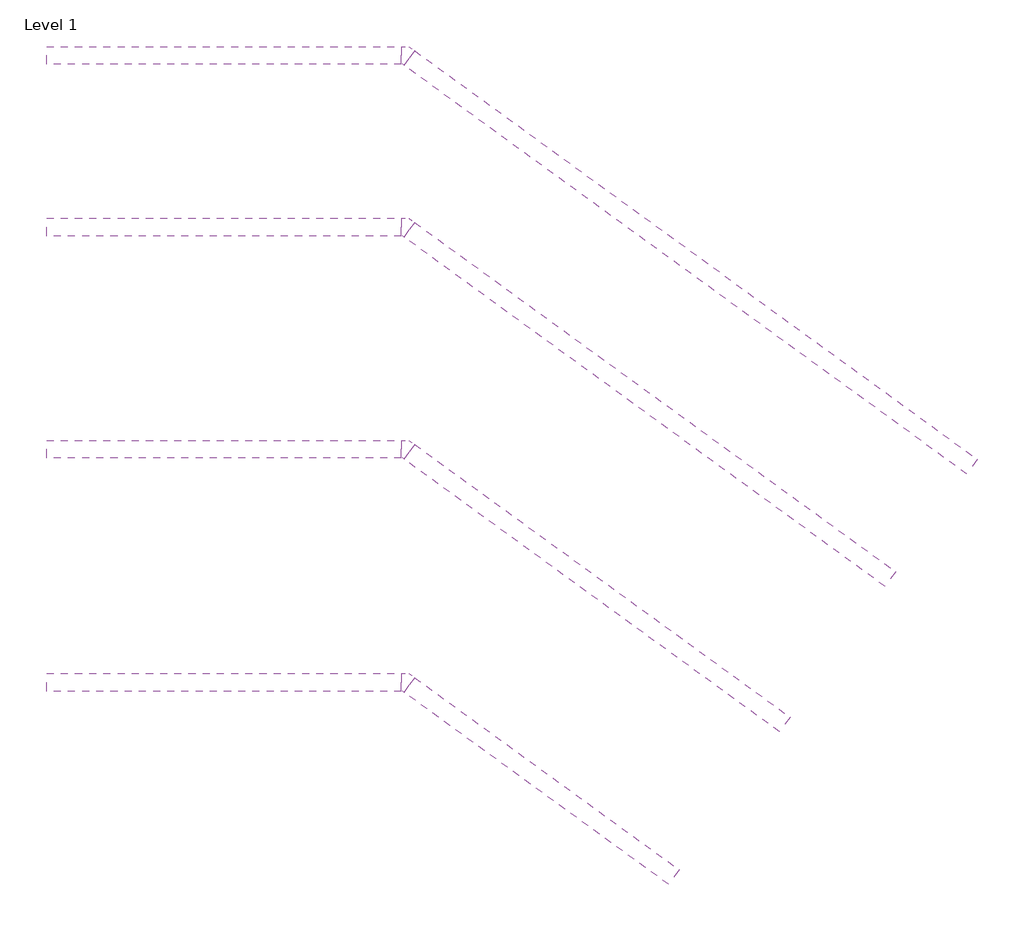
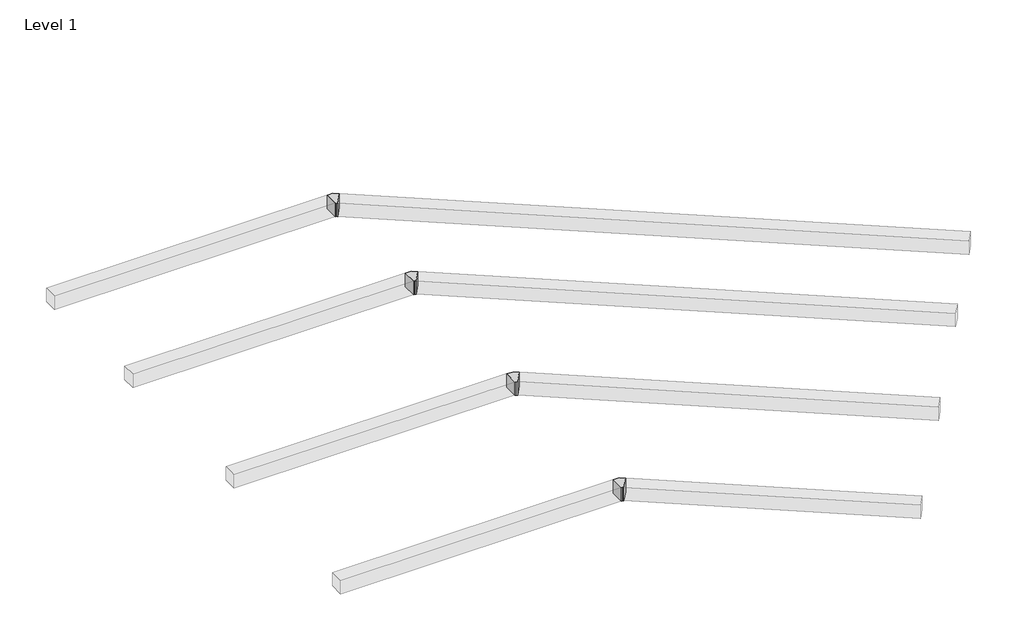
# One storey: 8 duct segments, 4 duct fittings.
"""IFC4 building model written with IfcOpenShell, lengths in millimetres."""

from ifc_helpers import new_model, si_unit, frame, origin, place, context, project, spatial, polyline, outline, extrude, transform, mapped, element, save
from components import m_rectangular_elbow_mitered_standard_30ebb5b0

model = new_model("IFC4")

# Units and contexts
model_context = context("Model", 3, world=origin())
ifc_project = project(units=[si_unit("LENGTHUNIT", "METRE", prefix="MILLI")], contexts=[model_context])

# Site, building, storey
site = spatial("IfcSite", under=ifc_project)
building = spatial("IfcBuilding", under=site)
storey = spatial("IfcBuildingStorey", under=building, Name="Level 1", Elevation=0.0)

# Duct fittings
placement = place(None, origin())
m_rectangular_elbow_mitered_standard_shape = m_rectangular_elbow_mitered_standard_30ebb5b0(model_context)
element("IfcDuctFitting", 1, ObjectType="M_Rectangular Elbow - Mitered : Standard", at=placement, inside=storey, context=model_context, shape_type="MappedRepresentation", body=[
    mapped(m_rectangular_elbow_mitered_standard_shape, transform((-7601.583569, 11603.9649644, 2750.0), x_axis=(-0.8090169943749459, 0.5877852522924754, 0.0), y_axis=(-0.5877852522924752, -0.8090169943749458, 0.0), z_axis=(0.0, 0.0, 0.9999999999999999))),
])
element("IfcDuctFitting", 2, ObjectType="M_Rectangular Elbow - Mitered : Standard", at=placement, inside=storey, context=model_context, shape_type="MappedRepresentation", body=[
    mapped(m_rectangular_elbow_mitered_standard_shape, transform((-7601.583569, 14489.2551825, 2750.0), x_axis=(-0.8090169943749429, 0.5877852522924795, 0.0), y_axis=(-0.5877852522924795, -0.8090169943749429, 0.0), z_axis=(0.0, 0.0, 1.0))),
])
element("IfcDuctFitting", 3, ObjectType="M_Rectangular Elbow - Mitered : Standard", at=placement, inside=storey, context=model_context, shape_type="MappedRepresentation", body=[
    mapped(m_rectangular_elbow_mitered_standard_shape, transform((-7601.583569, 7874.6548022, 2750.0), x_axis=(-0.8090169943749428, 0.5877852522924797, 0.0), y_axis=(-0.5877852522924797, -0.8090169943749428, 0.0), z_axis=(0.0, 0.0, 1.0))),
])
element("IfcDuctFitting", 4, ObjectType="M_Rectangular Elbow - Mitered : Standard", at=placement, inside=storey, context=model_context, shape_type="MappedRepresentation", body=[
    mapped(m_rectangular_elbow_mitered_standard_shape, transform((-7601.583569, 3957.9458864, 2750.0), x_axis=(-0.8090169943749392, 0.5877852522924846, 0.0), y_axis=(-0.5877852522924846, -0.8090169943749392, 0.0), z_axis=(0.0, 0.0, 1.0))),
])

# Duct segments
element("IfcDuctSegment", 5, ObjectType="RIGIPS - 6.65.00 - EI60 pionowy", at=placement, inside=storey, context=model_context, shape_type="SweptSolid", body=[
    extrude(outline(polyline([(-7675.3215234, 8024.6548022), (-7675.3215234, 7724.6548022), (-13633.166448, 7724.6548022), (-13633.166448, 8024.6548022), (-7675.3215234, 8024.6548022)])), frame((0.0, 0.0, 2600.0), z_axis=(0.0, 0.0, 1.0), x_axis=(1.0, 0.0, 0.0)), (0.0, 0.0, 1.0), 300.0),
])
element("IfcDuctSegment", 6, ObjectType="RIGIPS - 6.65.00 - EI60 pionowy", at=placement, inside=storey, context=model_context, shape_type="SweptSolid", body=[
    extrude(outline(polyline([(-7630.0960986, 7709.9601709), (-7453.7605229, 7952.6652692), (-1150.2888498, 3372.9250246), (-1326.6244255, 3130.2199263), (-7630.0960986, 7709.9601709)])), frame((0.0, 0.0, 2600.0), z_axis=(0.0, 0.0, 1.0), x_axis=(1.0, 0.0, 0.0)), (0.0, 0.0, 1.0), 300.0),
])
element("IfcDuctSegment", 7, ObjectType="RIGIPS - 6.65.00 - EI60 poziomy", at=placement, inside=storey, context=model_context, shape_type="SweptSolid", body=[
    extrude(outline(polyline([(-13633.166448, 11453.9649644), (-13633.166448, 11753.9649644), (-7675.3215234, 11753.9649644), (-7675.3215234, 11453.9649644), (-13633.166448, 11453.9649644)])), frame((0.0, 0.0, 2600.0), z_axis=(0.0, 0.0, 1.0), x_axis=(1.0, 0.0, 0.0)), (0.0, 0.0, 1.0), 300.0),
])
element("IfcDuctSegment", 8, ObjectType="RIGIPS - 6.65.00 - EI60 poziomy", at=placement, inside=storey, context=model_context, shape_type="SweptSolid", body=[
    extrude(outline(polyline([(-7630.0960986, 11439.2703331), (-7453.7605229, 11681.9754314), (623.1035157, 5813.7902144), (446.7679401, 5571.0851161), (-7630.0960986, 11439.2703331)])), frame((0.0, 0.0, 2600.0), z_axis=(0.0, 0.0, 1.0), x_axis=(1.0, 0.0, 0.0)), (0.0, 0.0, 1.0), 300.0),
])
element("IfcDuctSegment", 9, ObjectType="RIGIPS - 6.65.00 - EI120 pionowy", at=placement, inside=storey, context=model_context, shape_type="SweptSolid", body=[
    extrude(outline(polyline([(-13633.166448, 14339.2551825), (-13633.166448, 14639.2551825), (-7675.3215234, 14639.2551825), (-7675.3215234, 14339.2551825), (-13633.166448, 14339.2551825)])), frame((0.0, 0.0, 2600.0), z_axis=(0.0, 0.0, 1.0), x_axis=(1.0, 0.0, 0.0)), (0.0, 0.0, 1.0), 300.0),
])
element("IfcDuctSegment", 10, ObjectType="RIGIPS - 6.65.00 - EI120 pionowy", at=placement, inside=storey, context=model_context, shape_type="SweptSolid", body=[
    extrude(outline(polyline([(-7630.0960986, 14324.5605512), (-7453.7605229, 14567.2656495), (1995.1405474, 7702.237179), (1818.8049717, 7459.5320807), (-7630.0960986, 14324.5605512)])), frame((0.0, 0.0, 2600.0), z_axis=(0.0, 0.0, 1.0), x_axis=(1.0, 0.0, 0.0)), (0.0, 0.0, 1.0), 300.0),
])
element("IfcDuctSegment", 11, ObjectType="RIGIPS - 6.65.00 - EI120 poziomy", at=placement, inside=storey, context=model_context, shape_type="SweptSolid", body=[
    extrude(outline(polyline([(-7675.3215234, 4107.9458864), (-7675.3215234, 3807.9458864), (-13633.166448, 3807.9458864), (-13633.166448, 4107.9458864), (-7675.3215234, 4107.9458864)])), frame((0.0, 0.0, 2600.0), z_axis=(0.0, 0.0, 1.0), x_axis=(1.0, 0.0, 0.0)), (0.0, 0.0, 1.0), 300.0),
])
element("IfcDuctSegment", 12, ObjectType="RIGIPS - 6.65.00 - EI120 poziomy", at=placement, inside=storey, context=model_context, shape_type="SweptSolid", body=[
    extrude(outline(polyline([(-7630.0960986, 3793.2512551), (-7453.7605229, 4035.9563534), (-3012.7946182, 809.4057582), (-3189.1301938, 566.7006599), (-7630.0960986, 3793.2512551)])), frame((0.0, 0.0, 2600.0), z_axis=(0.0, 0.0, 1.0), x_axis=(1.0, 0.0, 0.0)), (0.0, 0.0, 1.0), 300.0),
])

save(model, "model.ifc")
